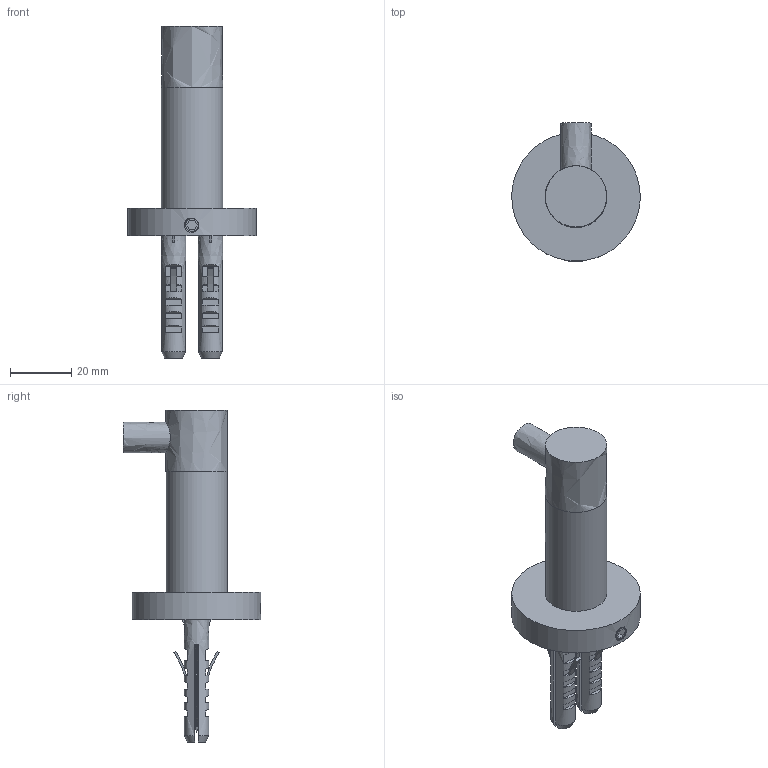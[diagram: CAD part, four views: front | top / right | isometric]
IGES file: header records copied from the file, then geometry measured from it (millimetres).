
Global section: file name: d46ed6d5-3ee5-4c32-94b9-64e653be5b2f.zip; native system: unknown; preprocessor: unknown; author: unknown; organization: unknown; date: 20200108.121838; units: millimetre
Bounding box: 42 x 45 x 108.5 mm (x, y, z)
Volume: 17059.5 mm3; surface area: 23453.6 mm2
Topology: 12 solids, 12 shells, 439 faces, 1153 edges, 758 vertices
Faces by surface type: bspline 439
